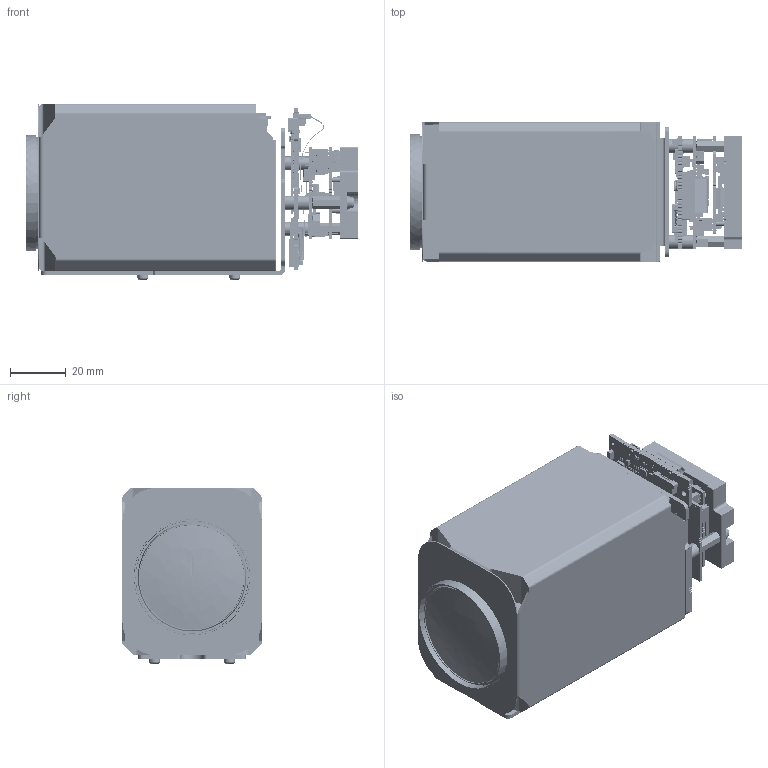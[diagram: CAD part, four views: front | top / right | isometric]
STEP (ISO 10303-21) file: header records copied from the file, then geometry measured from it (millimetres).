
FILE_DESCRIPTION( ( 'Unknown' ), '1' );
FILE_NAME( 'Q:/2003/Product3DCADModels/mm-ap29c01-0147-0101.stp', 'Unknown', ( 'Unknown' ), ( 'Unknown' ), 'PSStep 17.0.49', 'Unknown', ' ' );
FILE_SCHEMA( ( 'AUTOMOTIVE_DESIGN { 1 0 10303 214 1 1 1 1 }' ) );
Length unit declared in the file: millimetre
Products named in the file (675): Lead-5; Open_CASCADE_STEP_translator_6.8_1.2.1; Lead-7; Lead-3; Lead-6; Lead-1; Lead; Lead-2; Lead-4; Body; Open_CASCADE_STEP_translator_6.8_17.2.1; Pin_Shape; Open_CASCADE_STEP_translator_6.8_17.4.1; 5993357248; body; FRAME_RUG0010A; Open CASCADE STEP translator 6.8 16.15.1.1.1; Open CASCADE STEP translator 6.8 16.15.1.1.2; Open CASCADE STEP translator 6.8 16.15.1.1.3; Open CASCADE STEP translator 6.8 16.15.1.1.4; Open CASCADE STEP translator 6.8 16.15.1.1.5; Open CASCADE STEP translator 6.8 16.15.1.1.6; Open CASCADE STEP translator 6.8 16.15.1.1.7; Open CASCADE STEP translator 6.8 16.15.1.1.8; Open CASCADE STEP translator 6.8 16.15.1.1.9; Open CASCADE STEP translator 6.8 16.15.1.1.10; DEFAULT; DEFAULT-1; DEFAULT-2; SLP3313P6; LF; CP; User_Library-LED_1006_G; Grnn; Cut006; Cut005; #19555; Pad001; DRC_(S-PVSON-N10); User_Library-DRC_(S-PVSON-N10)-1_DRC_Koerper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
Assembly tree (1556 placements, depth 7):
  Assem1
    G-806-048H  x4
    flexi-01
    G-875-322T  x3
    G-106-321A  x3
    heatsink-0389-02
    G-977-016Z  x3
    G-915-068V  x3
    G-080-752R  x3
    EV9520L
    bracket-assy
      bracket-0378-02
      G-373-916V  x3
      G-513-075C  x3
    mm-ap29c01-0111-0301
      Board
        Open CASCADE STEP translator 6.8 16.1.1
          Open CASCADE STEP translator 6.8 16.1.1.1
      U9
        6292125808
          Thermal_Shape
          Open_CASCADE_STEP_translator_6.8_17.1
          Body
            Open_CASCADE_STEP_translator_6.8_17.2.1
          Pin_Shape  x24
            Open_CASCADE_STEP_translator_6.8_17.4.1
      R20
        6519727536
          Extruded
      L20
        CR1005-0402
        CR1005-0402
        CR1005-0402
        CR1005-0402
      C201
        6519727536
          Extruded
      C200
        6519727536
          Extruded
      C168
        CR1005-0402
        CR1005-0402
        CR1005-0402
        CR1005-0402
      U6
        6811100368
          Extruded
      R109
        6519727536
          Extruded
      R108
        6250716752
          Extruded
      C136
        6519727536
          Extruded
      R107
        6250716752
          Extruded
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Bounding box: 119.21 x 50 x 63.14 mm (x, y, z)
Volume: 275739.5 mm3; surface area: 69548.1 mm2
Topology: 1167 solids, 1168 shells, 19152 faces, 48436 edges, 31546 vertices
Faces by surface type: plane 15907, cylinder 2660, sphere 164, torus 159, revolution 140, cone 101, bspline 21
Full cylindrical faces by diameter (mm): 0.041 x1, 0.1 x184, 0.15 x1, 0.2 x2, 0.25 x1, 0.5 x1, 0.519 x1, 0.8 x8, 0.9 x8, 1 x1, 1.09 x1, 1.1 x2, 1.12 x2, 1.567 x3, 1.6 x4, 1.729 x8, 2 x12, 2.013 x4, 2.2 x50, 3.88 x7, 4.5 x3, 5 x10, 6 x1, 6.2 x2, 40.2 x1, 41.7 x1, 44 x1
Entity records: 371013 total; most frequent: CARTESIAN_POINT 50694, DIRECTION 48160, ORIENTED_EDGE 46551, EDGE_CURVE 23276, LINE 19327, VECTOR 19327, VERTEX_POINT 15408, AXIS2_PLACEMENT_3D 14399
